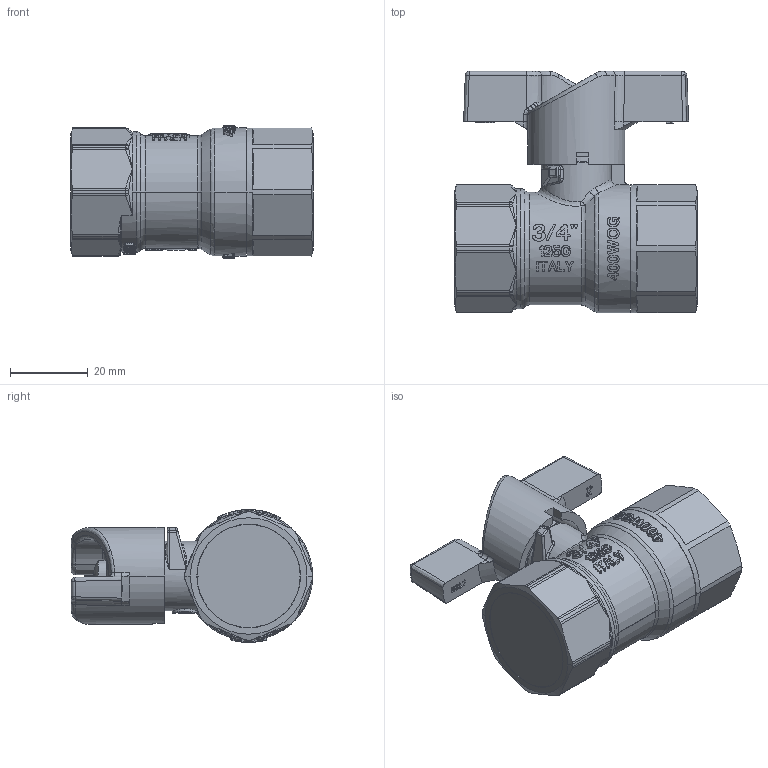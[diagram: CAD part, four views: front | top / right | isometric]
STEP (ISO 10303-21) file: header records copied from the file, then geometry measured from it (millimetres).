
FILE_DESCRIPTION((''),'2;1');
FILE_NAME('T205TD_3-4_ASM','2022-05-20T09:42:00',('Sergio.Dandrea'),(''),'CREO PARAMETRIC BY PTC INC, 2021164','CREO PARAMETRIC BY PTC INC, 2021164','');
FILE_SCHEMA(('CONFIG_CONTROL_DESIGN'));
Products named in the file (12): 87247; 87249; 87190; OR_105_6_5X1_45; ASTA_50-1-2_OR_ASM; 87191; SEDE_PTFE_F15; 87133; 12073; VITE_TESTA_CIL_PH_M4X7; AN_PTFE_SF_15; T205TD_3-4_ASM
Assembly tree (13 placements, depth 3):
  T205TD_3-4_ASM
    87247
    87249
    ASTA_50-1-2_OR_ASM
      87190
      OR_105_6_5X1_45  x2
    87191
    SEDE_PTFE_F15  x2
    87133
    12073
    VITE_TESTA_CIL_PH_M4X7
    AN_PTFE_SF_15
Bounding box: 62.45 x 62.2 x 34.2 mm (x, y, z)
Volume: 38305.4 mm3; surface area: 33199.7 mm2
Topology: 12 solids, 23 shells, 2003 faces, 5397 edges, 3487 vertices
Faces by surface type: extrusion 1194, plane 275, cylinder 223, bspline 102, cone 101, torus 76, sphere 16, revolution 16
Entity records: 77679 total; most frequent: CARTESIAN_POINT 32815, ORIENTED_EDGE 10639, DIRECTION 6016, EDGE_CURVE 5347, B_SPLINE_CURVE_WITH_KNOTS 3910, VERTEX_POINT 3482, VECTOR 3088, EDGE_LOOP 2071
